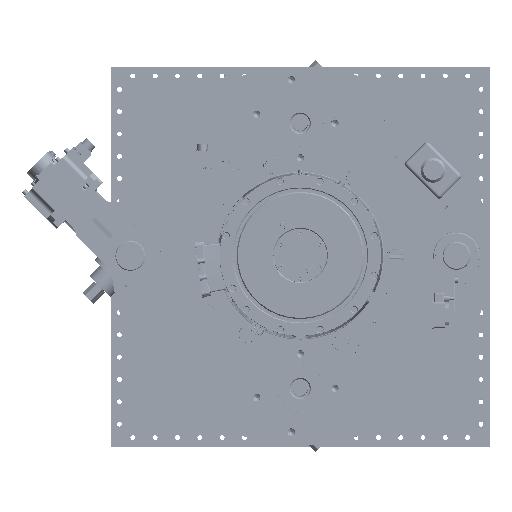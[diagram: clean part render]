
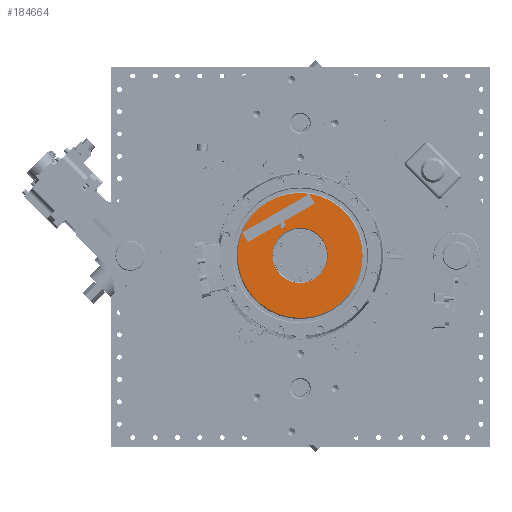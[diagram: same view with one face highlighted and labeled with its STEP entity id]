
A CAD part, top view. The second image highlights one B-rep face of the part: STEP entity #184664.
In plain terms, the highlighted planar face has unit normal (0, 0, 1).
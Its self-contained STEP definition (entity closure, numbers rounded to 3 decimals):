
#6492=PLANE('',#199467);
#13864=FACE_BOUND('',#30732,.T.);
#13865=FACE_BOUND('',#30733,.T.);
#20048=FACE_OUTER_BOUND('',#30731,.T.);
#30731=EDGE_LOOP('',(#144115));
#30732=EDGE_LOOP('',(#144116,#144117,#144118,#144119,#144120,#144121,#144122));
#30733=EDGE_LOOP('',(#144123));
#38116=CIRCLE('',#194650,8.);
#38117=CIRCLE('',#194651,8.);
#40814=CIRCLE('',#199397,167.975);
#40867=CIRCLE('',#199468,74.);
#47835=LINE('',#281550,#60101);
#47839=LINE('',#281558,#60105);
#47842=LINE('',#281564,#60108);
#47846=LINE('',#281575,#60112);
#47848=LINE('',#281578,#60114);
#60101=VECTOR('',#222403,10.);
#60105=VECTOR('',#222409,10.);
#60108=VECTOR('',#222414,10.);
#60112=VECTOR('',#222424,10.);
#60114=VECTOR('',#222426,10.);
#74129=VERTEX_POINT('',#281548);
#74130=VERTEX_POINT('',#281549);
#74133=VERTEX_POINT('',#281557);
#74135=VERTEX_POINT('',#281563);
#74139=VERTEX_POINT('',#281574);
#74140=VERTEX_POINT('',#281577);
#74143=VERTEX_POINT('',#281587);
#79313=VERTEX_POINT('',#367856);
#79364=VERTEX_POINT('',#367994);
#94199=EDGE_CURVE('',#74129,#74130,#47835,.T.);
#94203=EDGE_CURVE('',#74133,#74129,#47839,.T.);
#94206=EDGE_CURVE('',#74135,#74133,#47842,.T.);
#94211=EDGE_CURVE('',#74130,#74139,#47846,.T.);
#94213=EDGE_CURVE('',#74140,#74135,#47848,.T.);
#94219=EDGE_CURVE('',#74139,#74143,#38116,.T.);
#94220=EDGE_CURVE('',#74143,#74140,#38117,.T.);
#102259=EDGE_CURVE('',#79313,#79313,#40814,.T.);
#102327=EDGE_CURVE('',#79364,#79364,#40867,.T.);
#144115=ORIENTED_EDGE('',*,*,#102259,.T.);
#144116=ORIENTED_EDGE('',*,*,#94211,.T.);
#144117=ORIENTED_EDGE('',*,*,#94219,.T.);
#144118=ORIENTED_EDGE('',*,*,#94220,.T.);
#144119=ORIENTED_EDGE('',*,*,#94213,.T.);
#144120=ORIENTED_EDGE('',*,*,#94206,.T.);
#144121=ORIENTED_EDGE('',*,*,#94203,.T.);
#144122=ORIENTED_EDGE('',*,*,#94199,.T.);
#144123=ORIENTED_EDGE('',*,*,#102327,.F.);
#184664=ADVANCED_FACE('',(#20048,#13864,#13865),#6492,.T.);
#194650=AXIS2_PLACEMENT_3D('',#281589,#222438,#222439);
#194651=AXIS2_PLACEMENT_3D('',#281590,#222440,#222441);
#199397=AXIS2_PLACEMENT_3D('',#367858,#234524,#234525);
#199467=AXIS2_PLACEMENT_3D('',#367993,#234679,#234680);
#199468=AXIS2_PLACEMENT_3D('',#367995,#234681,#234682);
#222403=DIRECTION('',(0.5,-0.866,0.));
#222409=DIRECTION('',(0.866,0.5,0.));
#222414=DIRECTION('',(-0.5,0.866,0.));
#222424=DIRECTION('',(-0.866,-0.5,0.));
#222426=DIRECTION('',(-0.866,-0.5,0.));
#222438=DIRECTION('center_axis',(0.,0.,
-1.));
#222439=DIRECTION('ref_axis',(0.866,0.5,0.));
#222440=DIRECTION('center_axis',(0.,0.,
-1.));
#222441=DIRECTION('ref_axis',(0.866,0.5,0.));
#234524=DIRECTION('center_axis',(0.,0.,
1.));
#234525=DIRECTION('ref_axis',(-0.5,0.866,0.));
#234679=DIRECTION('center_axis',(0.,0.,
1.));
#234680=DIRECTION('ref_axis',(0.866,0.5,0.));
#234681=DIRECTION('center_axis',(0.,0.,
1.));
#234682=DIRECTION('ref_axis',(-0.5,0.866,0.));
#281548=CARTESIAN_POINT('',(24.157,165.294,1996.6));
#281549=CARTESIAN_POINT('',(39.025,139.541,1996.6));
#281550=CARTESIAN_POINT('',(33.545,149.033,1996.6));
#281557=CARTESIAN_POINT('',(-155.124,61.786,1996.6));
#281558=CARTESIAN_POINT('',(-20.689,139.402,1996.6));
#281563=CARTESIAN_POINT('',(-140.256,36.033,1996.6));
#281564=CARTESIAN_POINT('',(-153.17,58.401,1996.6));
#281574=CARTESIAN_POINT('',(-46.434,90.201,1996.6));
#281575=CARTESIAN_POINT('',(-95.461,61.895,1996.6));
#281577=CARTESIAN_POINT('',(-54.899,85.314,1996.6));
#281578=CARTESIAN_POINT('',(-95.461,61.895,1996.6));
#281587=CARTESIAN_POINT('',(-54.428,78.272,1996.6));
#281589=CARTESIAN_POINT('Origin',(-47.5,82.272,1996.6));
#281590=CARTESIAN_POINT('Origin',(-47.5,82.272,1996.6));
#367856=CARTESIAN_POINT('',(83.987,-145.471,1996.6));
#367858=CARTESIAN_POINT('Origin',(0.,0.,
1996.6));
#367993=CARTESIAN_POINT('Origin',(-61.627,106.741,1996.6));
#367994=CARTESIAN_POINT('',(37.,-64.086,1996.6));
#367995=CARTESIAN_POINT('Origin',(0.,0.,
1996.6));
